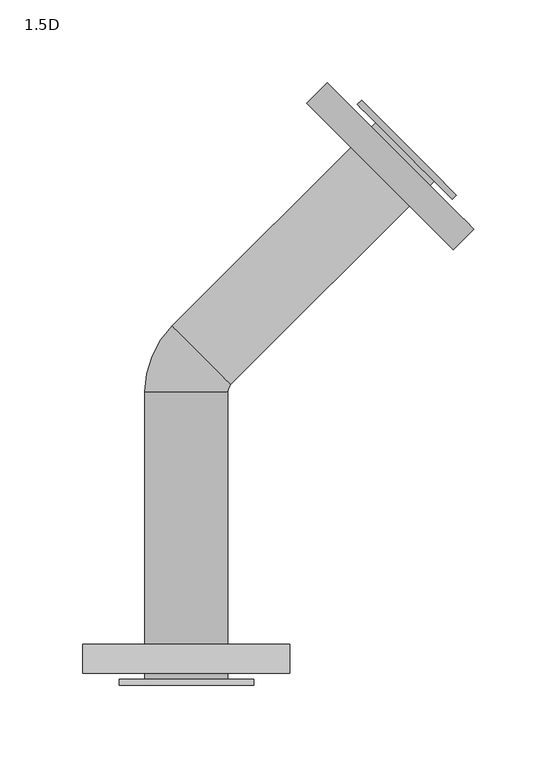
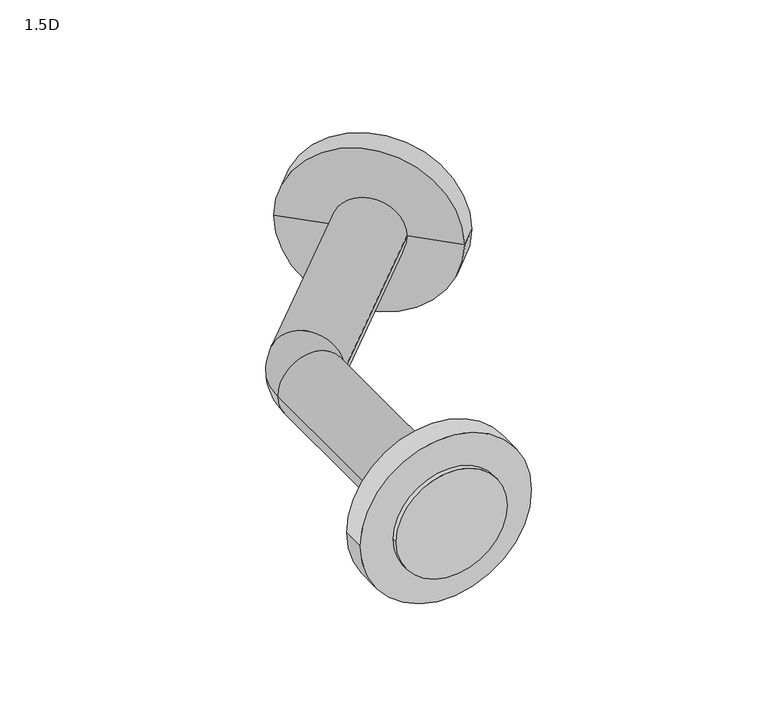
"""IFC4 building model written with IfcOpenShell, lengths in millimetres: pipe fitting geometry, Plumbing-Pipe-Fittings_Pexgol_Elbow-45-with-both-sides-flared_ends : 1.5D."""

from ifc_helpers import new_model, si_unit, point, frame, origin, origin_2d, place, context, project, spatial, circle_curve, ellipse_curve, trimmed, segment, composite_curve, outline, extrude, source, transform, mapped, element, save
from ifc_brep_helpers import plane_surface, cylinder_surface, revolved_surface, advanced_brep


def pipe_fitting_1_5d_4155cf32(model_context):
    return source(origin(), model_context, "Body", "SolidModel", [
        advanced_brep(
        [(161.0789248, 72.6905771, 0.0), (72.6905771, 161.0789248, 0.0), (85.0649458, 173.4532934, 0.0), (173.4532934, 85.0649458, 0.0), (116.8847509, 116.8847509, 0.0), (129.2591196, 129.2591196, 0.0)],
        [
            (0, 1, circle_curve(frame((116.8847509, 116.8847509, 0.0), z_axis=(0.7071067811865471, 0.7071067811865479, 0.0), x_axis=(-0.7071067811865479, 0.7071067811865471, 0.0)), 62.5)),
            (1, 2),
            (2, 3, circle_curve(frame((129.2591196, 129.2591196, 0.0), z_axis=(-0.7071067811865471, -0.7071067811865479, 0.0), x_axis=(-0.7071067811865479, 0.7071067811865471, 0.0)), 62.5)),
            (3, 0),
            (1, 0, circle_curve(frame((116.8847509, 116.8847509, 0.0), z_axis=(0.7071067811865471, 0.7071067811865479, 0.0), x_axis=(-0.7071067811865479, 0.7071067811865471, 0.0)), 62.5)),
            (3, 2, circle_curve(frame((129.2591196, 129.2591196, 0.0), z_axis=(-0.7071067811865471, -0.7071067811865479, 0.0), x_axis=(-0.7071067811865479, 0.7071067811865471, 0.0)), 62.5)),
            (4, 1),
            (0, 4),
            (2, 5),
            (5, 3),
        ],
        [
            cylinder_surface(frame((-10.6066017, -10.6066017, 0.0), z_axis=(-0.7071067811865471, -0.7071067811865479, 0.0), x_axis=(-0.7071067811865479, 0.7071067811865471, 0.0)), 62.5),
            plane_surface(frame((116.8847509, 116.8847509, 0.0), z_axis=(-0.7071067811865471, -0.7071067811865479, 0.0), x_axis=(-0.7071067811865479, 0.7071067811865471, 0.0))),
            plane_surface(frame((129.2591196, 129.2591196, 0.0), z_axis=(0.7071067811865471, 0.7071067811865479, 0.0), x_axis=(-0.7071067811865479, 0.7071067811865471, 0.0))),
        ],
        [
            (0, [[1, 2, 3, 4]]),
            (0, [[5, -4, 6, -2]]),
            (1, [[7, -1, 8]]),
            (1, [[-8, -5, -7]]),
            (2, [[-3, 9, 10]]),
            (2, [[-6, -10, -9]]),
        ],
    ),
        extrude(outline(composite_curve([segment(trimmed(circle_curve(origin_2d(), 62.5), [point((0.0, -62.5))], [point((0.0, 62.5))], False, "CARTESIAN"), True, "CONTINUOUS"), segment(trimmed(circle_curve(origin_2d(), 62.5), [point((0.0, 62.5))], [point((0.0, -62.5))], False, "CARTESIAN"), True, "CONTINUOUS")], self_intersect=False)), frame((0.0, -182.8, 0.0), z_axis=(0.0, 1.0, 0.0), x_axis=(0.0, 0.0, 1.0)), (0.0, 0.0, 1.0), 17.5),
        advanced_brep(
        [(162.9881131, 105.7124638, 0.0), (105.7124638, 162.9881131, 0.0), (-8.5686904, 26.7866486, 0.0), (26.7866486, -8.5686904, 0.0), (149.4823735, 114.1270345, 0.0), (114.1270345, 149.4823735, 0.0), (-25.0, -12.8820418, 0.0), (25.0, -12.8820418, 0.0), (-40.5, -190.0, 0.0), (40.5, -190.0, 0.0), (-25.0, -186.4, 0.0), (25.0, -186.4, 0.0), (-40.5, -186.4, 0.0), (40.5, -186.4, 0.0), (160.4425287, 103.1668794, 0.0), (103.1668794, 160.4425287, 0.0)],
        [
            (0, 1, circle_curve(frame((134.3502884, 134.3502884, 0.0), z_axis=(0.7071067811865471, 0.707106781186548, 0.0), x_axis=(-0.7071067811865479, 0.707106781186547, 0.0)), 40.5)),
            (1, 0, circle_curve(frame((134.3502884, 134.3502884, 0.0), z_axis=(0.7071067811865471, 0.707106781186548, 0.0), x_axis=(-0.7071067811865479, 0.707106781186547, 0.0)), 40.5)),
            (2, 3, circle_curve(frame((9.1089791, 9.1089791, 0.0), z_axis=(0.7071067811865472, 0.7071067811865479, 0.0), x_axis=(0.7071067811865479, -0.7071067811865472, 0.0)), 25.0)),
            (3, 4),
            (4, 5, circle_curve(frame((131.804704, 131.804704, 0.0), z_axis=(-0.7071067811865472, -0.7071067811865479, 0.0), x_axis=(0.7071067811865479, -0.7071067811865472, 0.0)), 25.0)),
            (5, 2),
            (3, 2, circle_curve(frame((9.1089791, 9.1089791, 0.0), z_axis=(0.7071067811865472, 0.7071067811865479, 0.0), x_axis=(0.7071067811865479, -0.7071067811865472, 0.0)), 25.0)),
            (5, 4, circle_curve(frame((131.804704, 131.804704, 0.0), z_axis=(-0.7071067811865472, -0.7071067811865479, 0.0), x_axis=(0.7071067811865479, -0.7071067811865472, 0.0)), 25.0)),
            (2, 6, circle_curve(frame((31.1, -12.8820418, 0.0), z_axis=(0.0, 0.0, 1.0), x_axis=(-0.7071067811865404, 0.7071067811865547, 0.0)), 56.1)),
            (6, 7, circle_curve(frame((0.0, -12.8820418, 0.0), z_axis=(0.0, 1.0, 0.0), x_axis=(1.0, 0.0, 0.0)), 25.0)),
            (7, 3, circle_curve(frame((31.1, -12.8820418, 0.0), z_axis=(0.0, 0.0, -1.0), x_axis=(-0.7071067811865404, 0.7071067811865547, 0.0)), 6.1)),
            (7, 6, circle_curve(frame((0.0, -12.8820418, 0.0), z_axis=(0.0, 1.0, 0.0), x_axis=(1.0, 0.0, 0.0)), 25.0)),
            (8, 9, circle_curve(frame((0.0, -190.0, 0.0), z_axis=(0.0, -1.0, 0.0), x_axis=(1.0, 0.0, 0.0)), 40.5)),
            (9, 8, circle_curve(frame((0.0, -190.0, 0.0), z_axis=(0.0, -1.0, 0.0), x_axis=(1.0, 0.0, 0.0)), 40.5)),
            (6, 10),
            (10, 11, circle_curve(frame((0.0, -186.4, 0.0), z_axis=(0.0, 1.0, 0.0), x_axis=(1.0, 0.0, 0.0)), 25.0)),
            (11, 7),
            (11, 10, circle_curve(frame((0.0, -186.4, 0.0), z_axis=(0.0, 1.0, 0.0), x_axis=(1.0, 0.0, 0.0)), 25.0)),
            (12, 13, circle_curve(frame((0.0, -186.4, 0.0), z_axis=(0.0, 1.0, 0.0), x_axis=(1.0, 0.0, 0.0)), 40.5)),
            (13, 12, circle_curve(frame((0.0, -186.4, 0.0), z_axis=(0.0, 1.0, 0.0), x_axis=(1.0, 0.0, 0.0)), 40.5)),
            (8, 12),
            (13, 9),
            (14, 15, circle_curve(frame((131.804704, 131.804704, 0.0), z_axis=(0.7071067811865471, 0.707106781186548, 0.0), x_axis=(-0.7071067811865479, 0.707106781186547, 0.0)), 40.5)),
            (15, 1),
            (0, 14),
            (15, 14, circle_curve(frame((131.804704, 131.804704, 0.0), z_axis=(0.7071067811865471, 0.707106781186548, 0.0), x_axis=(-0.7071067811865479, 0.707106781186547, 0.0)), 40.5)),
            (14, 4),
            (5, 15),
        ],
        [
            plane_surface(frame((134.3502884, 134.3502884, 0.0), z_axis=(0.7071067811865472, 0.7071067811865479, 0.0), x_axis=(0.0, 0.0, 1.0))),
            cylinder_surface(frame((134.3502884, 134.3502884, 0.0), z_axis=(0.7071067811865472, 0.7071067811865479, 0.0), x_axis=(0.7071067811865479, -0.7071067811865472, 0.0)), 25.0),
            revolved_surface(trimmed(ellipse_curve(frame((9.1089791, 9.1089791, 0.0), z_axis=(0.7071067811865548, 0.7071067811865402, 0.0), x_axis=(0.7071067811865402, -0.7071067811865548, 0.0)), 25.0, 25.0), [point((-8.5686904, 26.7866486, 0.0))], [point((26.7866486, -8.5686904, 0.0))], True, "CARTESIAN"), (31.1, -12.8820418, 0.0), (0.0, 0.0, 1.0)),
            revolved_surface(trimmed(ellipse_curve(frame((9.1089791, 9.1089791, 0.0), z_axis=(0.7071067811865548, 0.7071067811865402, 0.0), x_axis=(0.7071067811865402, -0.7071067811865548, 0.0)), 25.0, 25.0), [point((26.7866486, -8.5686904, 0.0))], [point((-8.5686904, 26.7866486, 0.0))], True, "CARTESIAN"), (31.1, -12.8820418, 0.0), (0.0, 0.0, 1.0)),
            plane_surface(frame((0.0, -190.0, 0.0), z_axis=(0.0, -1.0, 0.0), x_axis=(0.0, 0.0, 1.0))),
            cylinder_surface(frame((0.0, -12.8820418, 0.0), z_axis=(0.0, 1.0, 0.0), x_axis=(1.0, 0.0, 0.0)), 25.0),
            plane_surface(frame((40.5, -186.4, 0.0), z_axis=(0.0, 1.0, 0.0), x_axis=(0.0, 0.0, -1.0))),
            cylinder_surface(frame((0.0, -186.4, 0.0), z_axis=(0.0, -1.0, 0.0), x_axis=(1.0, 0.0, 0.0)), 40.5),
            cylinder_surface(frame((0.0, 0.0, 0.0), z_axis=(-0.707106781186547, -0.7071067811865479, 0.0), x_axis=(-0.7071067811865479, 0.707106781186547, 0.0)), 40.5),
            plane_surface(frame((131.804704, 131.804704, 0.0), z_axis=(-0.7071067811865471, -0.707106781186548, 0.0), x_axis=(-0.707106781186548, 0.7071067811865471, 0.0))),
        ],
        [
            (0, [[1, 2]]),
            (1, [[3, 4, 5, 6]]),
            (1, [[7, -6, 8, -4]]),
            (2, [[-3, 9, 10, 11]]),
            (3, [[-7, -11, 12, -9]]),
            (4, [[13, 14]]),
            (5, [[-10, 15, 16, 17]]),
            (5, [[-12, -17, 18, -15]]),
            (6, [[19, 20], [-16, -18]]),
            (7, [[-13, 21, -20, 22]]),
            (7, [[-14, -22, -19, -21]]),
            (8, [[23, 24, -1, 25]]),
            (8, [[-24, 26, -25, -2]]),
            (9, [[-23, 27, -8, 28]]),
            (9, [[-26, -28, -5, -27]]),
        ],
    ),
    ])


if __name__ == "__main__":
    model = new_model("IFC4")
    model_context = context("Model", 3, world=origin())
    ifc_project = project(units=[si_unit("LENGTHUNIT", "METRE", prefix="MILLI")], contexts=[model_context])
    site = spatial("IfcSite", under=ifc_project)
    building = spatial("IfcBuilding", under=site)
    placement = place(None, origin())
    pipe_fitting_1_5d_shape = pipe_fitting_1_5d_4155cf32(model_context)
    element("IfcPipeFitting", 1, ObjectType="Plumbing-Pipe-Fittings_Pexgol_Elbow-45-with-both-sides-flared_ends : 1.5D", at=placement, inside=building, context=model_context, shape_type="MappedRepresentation", body=[
        mapped(pipe_fitting_1_5d_shape, transform((0.0, 0.0, 0.0), x_axis=(1.0, 0.0, 0.0), y_axis=(0.0, 1.0, 0.0), z_axis=(0.0, 0.0, 1.0))),
    ])
    save(model, "model.ifc")
